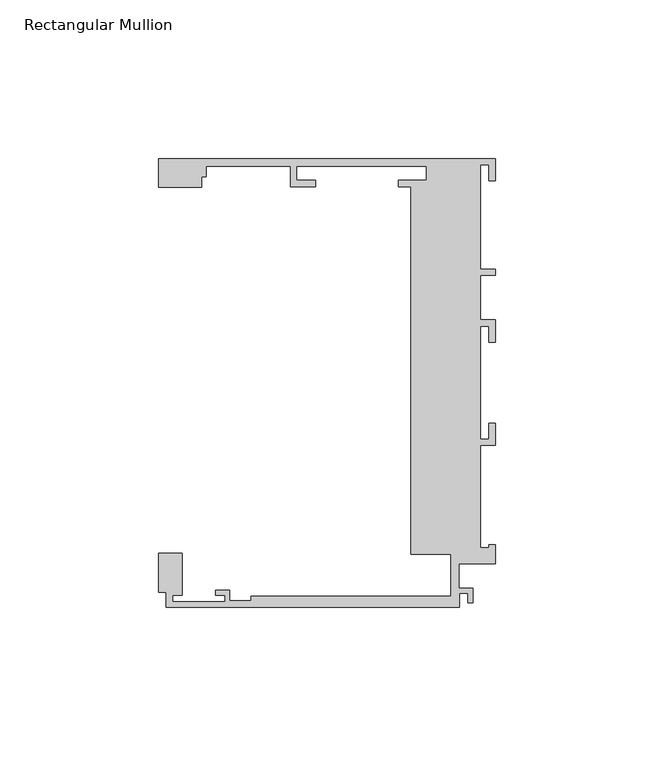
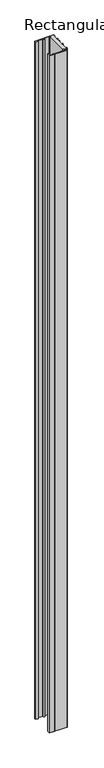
"""IFC4 building model written with IfcOpenShell, lengths in millimetres: member geometry, Rectangular Mullion : Danpal_K12_End-Mullion_B2."""

from ifc_helpers import new_model, si_unit, frame, origin, place, context, project, spatial, polyline, outline, extrude, source, transform, mapped, element, save


def rectangular_mullion_227ebff7(model_context):
    return source(origin(), model_context, "Body", "SweptSolid", [
        extrude(outline(polyline([(-26.6209612, 1.9446289), (-26.6209612, 117.8676658), (-30.6, 117.8676658), (-30.6, 119.8676658), (-21.835, 119.8676658), (-21.835, 124.2676658), (-62.7350275, 124.2676658), (-62.7350275, 119.8676658), (-56.7350275, 119.8676658), (-56.7350275, 117.8676658), (-64.7350275, 117.8676658), (-64.7350275, 124.2676658), (-91.2900275, 124.2676658), (-91.2900275, 121.0676175), (-92.8228167, 121.0676175), (-92.8228167, 117.6986749), (-106.4117426, 117.6986749), (-106.4117426, 126.7676657), (0.0, 126.7676657), (0.0, 119.7676657), (-2.0, 119.7676657), (-2.0, 124.7676657), (-4.8, 124.7676657), (-4.8, 91.8676485), (0.0, 91.8676485), (0.0, 89.8676485), (-4.8, 89.8676485), (-4.8, 75.867683), (0.0, 75.867683), (0.0, 68.8676657), (-2.0, 68.8676657), (-2.0, 73.8676657), (-4.8, 73.8676657), (-4.8, 38.2443486), (-2.0, 38.2443486), (-2.0, 43.2443486), (0.0, 43.2443486), (0.0, 36.2443486), (-4.8, 36.2443486), (-4.8, 3.9448486), (-2.0, 3.9448486), (-2.0, 4.9448486), (0.0, 4.9448486), (0.0, -1.0551514), (-11.6055875, -1.0551514), (-11.6055875, -8.8006425), (-7.1518595, -8.8006425), (-7.1518595, -13.3051514), (-8.6518595, -13.3051514), (-8.6518595, -10.3006425), (-11.4019537, -10.3006425), (-11.4019537, -14.8051514), (-103.8999976, -14.8051514), (-103.8999976, -10.065304), (-106.4117426, -10.065304), (-106.4117426, 2.316674), (-98.8999976, 2.316674), (-98.8999976, -11.0051513), (-101.8999976, -11.0051513), (-101.8999976, -13.0051512), (-85.3999976, -13.0051512), (-85.3999976, -11.0051513), (-88.3999976, -11.0051513), (-88.3999976, -9.5051512), (-83.8999976, -9.5051512), (-83.8999976, -12.8051513), (-77.1531178, -12.8051513), (-77.1531178, -11.3051512), (-14.1055875, -11.3051512), (-14.1055875, 1.9446289), (-26.6209612, 1.9446289)])), frame((0.0, 0.0, -4000.0), z_axis=(0.0, 0.0, 1.0), x_axis=(1.0, 0.0, 0.0)), (0.0, 0.0, 1.0), 4000.0),
    ])


if __name__ == "__main__":
    model = new_model("IFC4")
    model_context = context("Model", 3, world=origin())
    ifc_project = project(units=[si_unit("LENGTHUNIT", "METRE", prefix="MILLI")], contexts=[model_context])
    site = spatial("IfcSite", under=ifc_project)
    building = spatial("IfcBuilding", under=site)
    placement = place(None, origin())
    rectangular_mullion_shape = rectangular_mullion_227ebff7(model_context)
    element("IfcMember", 1, ObjectType="Rectangular Mullion : Danpal_K12_End-Mullion_B2", at=placement, inside=building, context=model_context, shape_type="MappedRepresentation", body=[
        mapped(rectangular_mullion_shape, transform((0.0, 0.0, 0.0), x_axis=(1.0, 0.0, 0.0), y_axis=(0.0, 1.0, 0.0), z_axis=(0.0, 0.0, 1.0))),
    ])
    save(model, "model.ifc")
